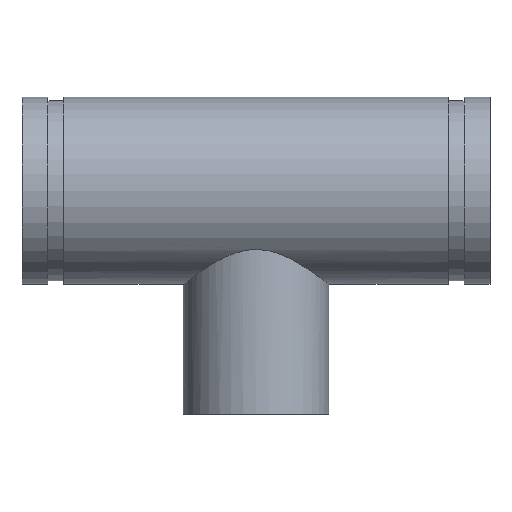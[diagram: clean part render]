
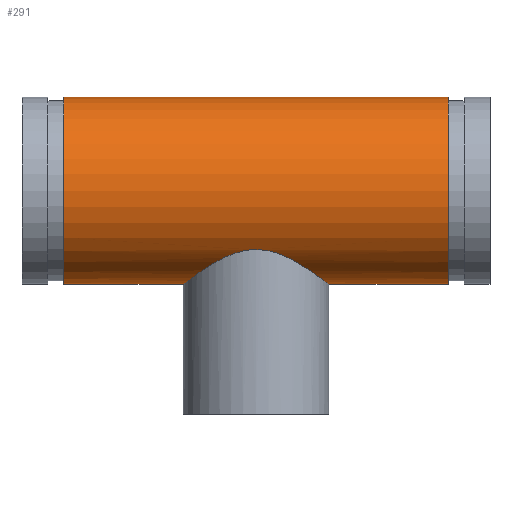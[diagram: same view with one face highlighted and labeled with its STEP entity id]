
A CAD part, top view. The second image highlights one B-rep face of the part: STEP entity #291.
In plain terms, the highlighted cylindrical face has radius 57.15 mm (diameter 114.3 mm), a full revolution.
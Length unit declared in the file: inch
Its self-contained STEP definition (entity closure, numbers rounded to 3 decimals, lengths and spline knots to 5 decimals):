
#45=B_SPLINE_CURVE_WITH_KNOTS('',3,(#511,#512,#513,#514,#515,#516,#517,
#518,#519,#520,#521,#522,#523,#524,#525,#526,#527,#528,#529,#530,#531,#532,
#533,#534,#535,#536,#537,#538,#539,#540,#541,#542,#543,#544,#545,#546,#547,
#548,#549,#550,#551,#552,#553,#554,#555,#556,#557,#558,#559,#560),
 .UNSPECIFIED.,.F.,.F.,(4,2,2,2,2,2,2,2,2,2,2,2,2,2,2,2,2,2,2,2,2,2,2,2,
4),(0.,0.90377,1.80754,2.7113,3.61507,
4.49524,5.37541,6.25558,7.13574,8.01591,
8.89608,9.77625,10.65641,11.56018,12.46395,
13.36772,14.27149,15.17525,16.07902,16.98279,
17.88656,18.76673,19.64689,20.52706,21.40723),
 .UNSPECIFIED.);
#46=B_SPLINE_CURVE_WITH_KNOTS('',3,(#561,#562,#563,#564,#565,#566,#567,
#568,#569,#570,#571,#572,#573,#574,#575,#576,#577,#578),.UNSPECIFIED.,.F.,
 .F.,(4,2,2,2,2,2,2,2,4),(21.40723,22.2874,23.16757,
24.04773,24.9279,25.83167,26.73544,27.6392,
28.54297),.UNSPECIFIED.);
#51=LINE('',#508,#59);
#59=VECTOR('',#410,2.25);
#67=CYLINDRICAL_SURFACE('',#338,2.25);
#77=FACE_BOUND('',#108,.T.);
#88=FACE_OUTER_BOUND('',#107,.T.);
#107=EDGE_LOOP('',(#221,#222,#223,#224));
#108=EDGE_LOOP('',(#225,#226));
#121=CIRCLE('',#321,2.25);
#132=CIRCLE('',#337,2.25);
#141=VERTEX_POINT('',#476);
#152=VERTEX_POINT('',#505);
#153=VERTEX_POINT('',#509);
#154=VERTEX_POINT('',#510);
#165=EDGE_CURVE('',#141,#141,#121,.T.);
#178=EDGE_CURVE('',#152,#152,#132,.T.);
#179=EDGE_CURVE('',#152,#141,#51,.T.);
#180=EDGE_CURVE('',#153,#154,#45,.T.);
#181=EDGE_CURVE('',#154,#153,#46,.T.);
#221=ORIENTED_EDGE('',*,*,#178,.T.);
#222=ORIENTED_EDGE('',*,*,#179,.T.);
#223=ORIENTED_EDGE('',*,*,#165,.T.);
#224=ORIENTED_EDGE('',*,*,#179,.F.);
#225=ORIENTED_EDGE('',*,*,#180,.F.);
#226=ORIENTED_EDGE('',*,*,#181,.F.);
#291=ADVANCED_FACE('',(#88,#77),#67,.T.);
#321=AXIS2_PLACEMENT_3D('',#477,#372,#373);
#337=AXIS2_PLACEMENT_3D('',#506,#406,#407);
#338=AXIS2_PLACEMENT_3D('',#507,#408,#409);
#372=DIRECTION('center_axis',(-1.,0.,0.));
#373=DIRECTION('ref_axis',(0.,-1.,0.));
#406=DIRECTION('center_axis',(1.,0.,0.));
#407=DIRECTION('ref_axis',(0.,-1.,0.));
#408=DIRECTION('center_axis',(-1.,0.,0.));
#409=DIRECTION('ref_axis',(0.,-1.,0.));
#410=DIRECTION('',(1.,0.,0.));
#476=CARTESIAN_POINT('',(4.63,2.25,0.));
#477=CARTESIAN_POINT('Origin',(4.63,0.,0.));
#505=CARTESIAN_POINT('',(-4.63,2.25,0.));
#506=CARTESIAN_POINT('Origin',(-4.63,0.,0.));
#507=CARTESIAN_POINT('Origin',(5.63,0.,0.));
#508=CARTESIAN_POINT('',(5.63,2.25,0.));
#509=CARTESIAN_POINT('',(0.,-1.41421,-1.75));
#510=CARTESIAN_POINT('',(-1.75,-2.25,0.));
#511=CARTESIAN_POINT('Ctrl Pts',(0.,-1.41421,
-1.75));
#512=CARTESIAN_POINT('Ctrl Pts',(0.1186,-1.41421,-1.75));
#513=CARTESIAN_POINT('Ctrl Pts',(0.23693,-1.42958,-1.73785));
#514=CARTESIAN_POINT('Ctrl Pts',(0.46672,-1.48506,-1.69069));
#515=CARTESIAN_POINT('Ctrl Pts',(0.57826,-1.52489,-1.6557));
#516=CARTESIAN_POINT('Ctrl Pts',(0.78996,-1.61708,-1.56579));
#517=CARTESIAN_POINT('Ctrl Pts',(0.89032,-1.66939,-1.51077));
#518=CARTESIAN_POINT('Ctrl Pts',(1.07605,-1.77541,-1.38464));
#519=CARTESIAN_POINT('Ctrl Pts',(1.16141,-1.8291,-1.31347));
#520=CARTESIAN_POINT('Ctrl Pts',(1.31148,-1.92792,-1.16339));
#521=CARTESIAN_POINT('Ctrl Pts',(1.38219,-1.97699,-1.0792));
#522=CARTESIAN_POINT('Ctrl Pts',(1.50882,-2.0675,-0.89364));
#523=CARTESIAN_POINT('Ctrl Pts',(1.56474,-2.10891,-0.79226));
#524=CARTESIAN_POINT('Ctrl Pts',(1.65597,-2.17746,-0.57779));
#525=CARTESIAN_POINT('Ctrl Pts',(1.69136,-2.20465,-0.46446));
#526=CARTESIAN_POINT('Ctrl Pts',(1.73838,-2.24093,-0.23332));
#527=CARTESIAN_POINT('Ctrl Pts',(1.75,-2.25,-0.11551));
#528=CARTESIAN_POINT('Ctrl Pts',(1.75,-2.25,0.11551));
#529=CARTESIAN_POINT('Ctrl Pts',(1.73838,-2.24093,0.23332));
#530=CARTESIAN_POINT('Ctrl Pts',(1.69136,-2.20465,0.46446));
#531=CARTESIAN_POINT('Ctrl Pts',(1.65597,-2.17746,0.57779));
#532=CARTESIAN_POINT('Ctrl Pts',(1.56474,-2.10891,0.79226));
#533=CARTESIAN_POINT('Ctrl Pts',(1.50882,-2.0675,0.89364));
#534=CARTESIAN_POINT('Ctrl Pts',(1.38219,-1.97699,1.0792));
#535=CARTESIAN_POINT('Ctrl Pts',(1.31148,-1.92792,1.16339));
#536=CARTESIAN_POINT('Ctrl Pts',(1.16141,-1.8291,1.31347));
#537=CARTESIAN_POINT('Ctrl Pts',(1.07605,-1.77541,1.38464));
#538=CARTESIAN_POINT('Ctrl Pts',(0.89032,-1.66939,1.51077));
#539=CARTESIAN_POINT('Ctrl Pts',(0.78996,-1.61708,1.56579));
#540=CARTESIAN_POINT('Ctrl Pts',(0.57826,-1.52489,1.6557));
#541=CARTESIAN_POINT('Ctrl Pts',(0.46672,-1.48506,1.69069));
#542=CARTESIAN_POINT('Ctrl Pts',(0.23693,-1.42958,1.73785));
#543=CARTESIAN_POINT('Ctrl Pts',(0.1186,-1.41421,1.75));
#544=CARTESIAN_POINT('Ctrl Pts',(-0.1186,-1.41421,1.75));
#545=CARTESIAN_POINT('Ctrl Pts',(-0.23693,-1.42958,1.73785));
#546=CARTESIAN_POINT('Ctrl Pts',(-0.46672,-1.48506,1.69069));
#547=CARTESIAN_POINT('Ctrl Pts',(-0.57826,-1.52489,1.6557));
#548=CARTESIAN_POINT('Ctrl Pts',(-0.78996,-1.61708,1.56579));
#549=CARTESIAN_POINT('Ctrl Pts',(-0.89032,-1.66939,1.51077));
#550=CARTESIAN_POINT('Ctrl Pts',(-1.07605,-1.77541,1.38464));
#551=CARTESIAN_POINT('Ctrl Pts',(-1.16141,-1.8291,1.31347));
#552=CARTESIAN_POINT('Ctrl Pts',(-1.31148,-1.92792,1.16339));
#553=CARTESIAN_POINT('Ctrl Pts',(-1.38219,-1.97699,1.0792));
#554=CARTESIAN_POINT('Ctrl Pts',(-1.50882,-2.0675,0.89364));
#555=CARTESIAN_POINT('Ctrl Pts',(-1.56474,-2.10891,0.79226));
#556=CARTESIAN_POINT('Ctrl Pts',(-1.65597,-2.17746,0.57779));
#557=CARTESIAN_POINT('Ctrl Pts',(-1.69136,-2.20465,0.46446));
#558=CARTESIAN_POINT('Ctrl Pts',(-1.73838,-2.24093,0.23332));
#559=CARTESIAN_POINT('Ctrl Pts',(-1.75,-2.25,0.11551));
#560=CARTESIAN_POINT('Ctrl Pts',(-1.75,-2.25,0.));
#561=CARTESIAN_POINT('Ctrl Pts',(-1.75,-2.25,0.));
#562=CARTESIAN_POINT('Ctrl Pts',(-1.75,-2.25,-0.11551));
#563=CARTESIAN_POINT('Ctrl Pts',(-1.73838,-2.24093,-0.23332));
#564=CARTESIAN_POINT('Ctrl Pts',(-1.69136,-2.20465,-0.46446));
#565=CARTESIAN_POINT('Ctrl Pts',(-1.65597,-2.17746,-0.57779));
#566=CARTESIAN_POINT('Ctrl Pts',(-1.56474,-2.10891,-0.79226));
#567=CARTESIAN_POINT('Ctrl Pts',(-1.50882,-2.0675,-0.89364));
#568=CARTESIAN_POINT('Ctrl Pts',(-1.38219,-1.97699,-1.0792));
#569=CARTESIAN_POINT('Ctrl Pts',(-1.31148,-1.92792,-1.16339));
#570=CARTESIAN_POINT('Ctrl Pts',(-1.16141,-1.8291,-1.31347));
#571=CARTESIAN_POINT('Ctrl Pts',(-1.07605,-1.77541,-1.38464));
#572=CARTESIAN_POINT('Ctrl Pts',(-0.89032,-1.66939,-1.51077));
#573=CARTESIAN_POINT('Ctrl Pts',(-0.78996,-1.61708,-1.56579));
#574=CARTESIAN_POINT('Ctrl Pts',(-0.57826,-1.52489,-1.6557));
#575=CARTESIAN_POINT('Ctrl Pts',(-0.46672,-1.48506,-1.69069));
#576=CARTESIAN_POINT('Ctrl Pts',(-0.23693,-1.42958,-1.73785));
#577=CARTESIAN_POINT('Ctrl Pts',(-0.1186,-1.41421,-1.75));
#578=CARTESIAN_POINT('Ctrl Pts',(0.,-1.41421,
-1.75));
